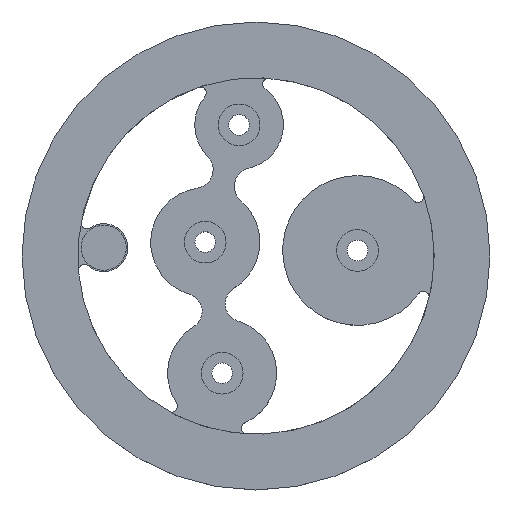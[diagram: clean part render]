
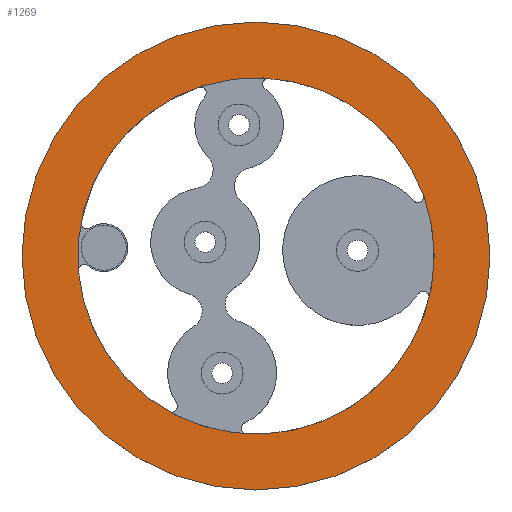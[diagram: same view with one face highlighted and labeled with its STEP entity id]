
A CAD part, top view. The second image highlights one B-rep face of the part: STEP entity #1269.
In plain terms, the highlighted planar face has unit normal (0, 0, 1).
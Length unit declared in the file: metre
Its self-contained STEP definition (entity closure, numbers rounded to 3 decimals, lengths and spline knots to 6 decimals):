
#169=PLANE('',#1470);
#472=ORIENTED_EDGE('',*,*,#587,.T.);
#473=ORIENTED_EDGE('',*,*,#597,.T.);
#587=EDGE_CURVE('',#735,#735,#848,.T.);
#597=EDGE_CURVE('',#741,#741,#853,.F.);
#735=VERTEX_POINT('',#2119);
#741=VERTEX_POINT('',#2140);
#848=CIRCLE('',#1380,0.030313);
#853=CIRCLE('',#1390,0.0398);
#999=EDGE_LOOP('',(#472));
#1000=EDGE_LOOP('',(#473));
#1129=FACE_BOUND('',#999,.T.);
#1130=FACE_BOUND('',#1000,.T.);
#1269=ADVANCED_FACE('',(#1129,#1130),#169,.F.);
#1380=AXIS2_PLACEMENT_3D('',#2118,#1684,#1685);
#1390=AXIS2_PLACEMENT_3D('',#2139,#1709,#1710);
#1470=AXIS2_PLACEMENT_3D('',#2285,#1896,#1897);
#1684=DIRECTION('',(0.,0.,-1.));
#1685=DIRECTION('',(1.,0.,0.));
#1709=DIRECTION('',(0.,0.,-1.));
#1710=DIRECTION('',(1.,0.,0.));
#1896=DIRECTION('',(0.,0.,-1.));
#1897=DIRECTION('',(1.,0.,0.));
#2118=CARTESIAN_POINT('',(0.,0.,0.0312));
#2119=CARTESIAN_POINT('',(0.030313,0.,0.0312));
#2139=CARTESIAN_POINT('',(0.,0.,0.0312));
#2140=CARTESIAN_POINT('',(0.0398,0.,0.0312));
#2285=CARTESIAN_POINT('',(0.,0.,0.0312));
